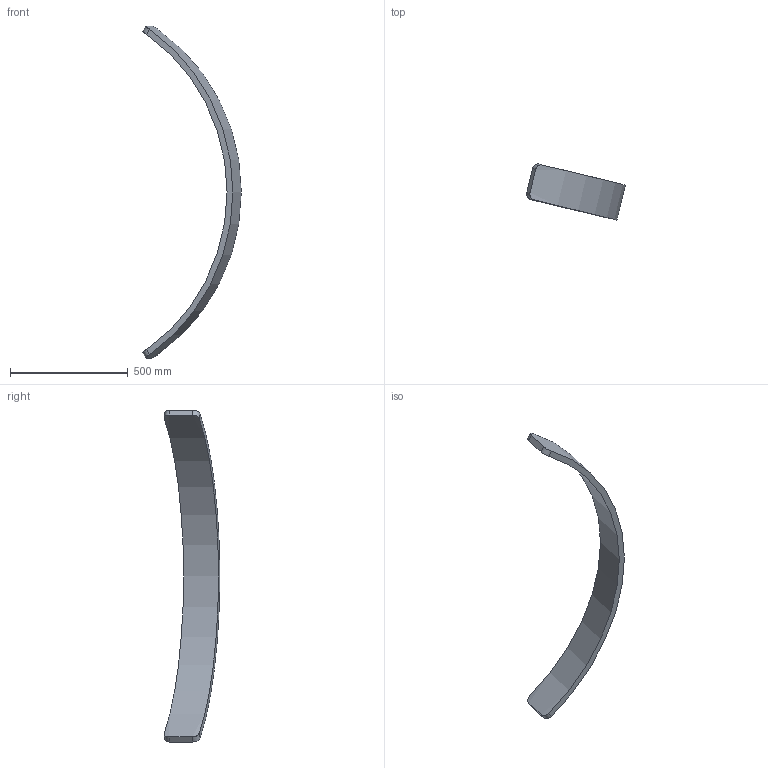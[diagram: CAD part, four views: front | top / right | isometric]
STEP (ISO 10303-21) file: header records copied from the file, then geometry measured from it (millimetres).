
FILE_DESCRIPTION (( 'STEP AP214' ), '1' );
FILE_NAME ('Section 5 AR.STEP', '2025-01-09T19:43:27', ( '' ), ( '' ), 'SwSTEP 2.0', 'SolidWorks 2024', '' );
FILE_SCHEMA (( 'AUTOMOTIVE_DESIGN' ));
Length unit declared in the file: inch
Products named in the file (1): Section 5 AR
Bounding box: 418.23 x 236.83 x 1409.39 mm (x, y, z)
Volume: 6371703.2 mm3; surface area: 592145.7 mm2
Topology: 1 solids, 1 shells, 10 faces, 24 edges, 16 vertices
Faces by surface type: cylinder 6, plane 4
Entity records: 543 total; most frequent: CARTESIAN_POINT 291, ORIENTED_EDGE 48, DIRECTION 42, EDGE_CURVE 24, VERTEX_POINT 16, AXIS2_PLACEMENT_3D 15, LINE 12, VECTOR 12
